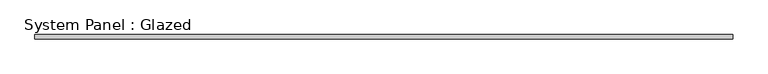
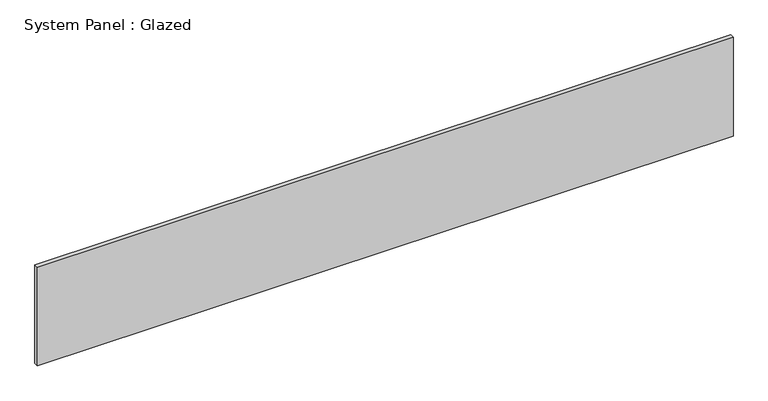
"""IFC4 building model written with IfcOpenShell, lengths in millimetres: plate geometry, System Panel : Glazed."""

from ifc_helpers import new_model, si_unit, origin, origin_with_axes, place, context, project, spatial, polyline, outline, extrude, source, transform, mapped, element, save


def system_panel_glazed_a266fa70(model_context):
    return source(origin(), model_context, "Body", "SweptSolid", [
        extrude(outline(polyline([(2000.0, 24.5), (-2000.0, 24.5), (-2000.0, 49.5), (2000.0, 49.5), (2000.0, 24.5)])), origin_with_axes(), (0.0, 0.0, 1.0), 600.0),
    ])


if __name__ == "__main__":
    model = new_model("IFC4")
    model_context = context("Model", 3, world=origin())
    ifc_project = project(units=[si_unit("LENGTHUNIT", "METRE", prefix="MILLI")], contexts=[model_context])
    site = spatial("IfcSite", under=ifc_project)
    building = spatial("IfcBuilding", under=site)
    placement = place(None, origin())
    system_panel_glazed_shape = system_panel_glazed_a266fa70(model_context)
    element("IfcPlate", 1, ObjectType="System Panel : Glazed", at=placement, inside=building, context=model_context, shape_type="MappedRepresentation", body=[
        mapped(system_panel_glazed_shape, transform((0.0, 0.0, 0.0), x_axis=(1.0, 0.0, 0.0), y_axis=(0.0, 1.0, 0.0), z_axis=(0.0, 0.0, 1.0))),
    ])
    save(model, "model.ifc")
